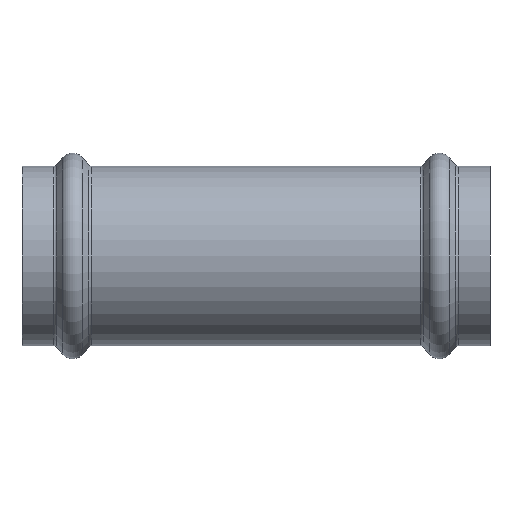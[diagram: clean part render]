
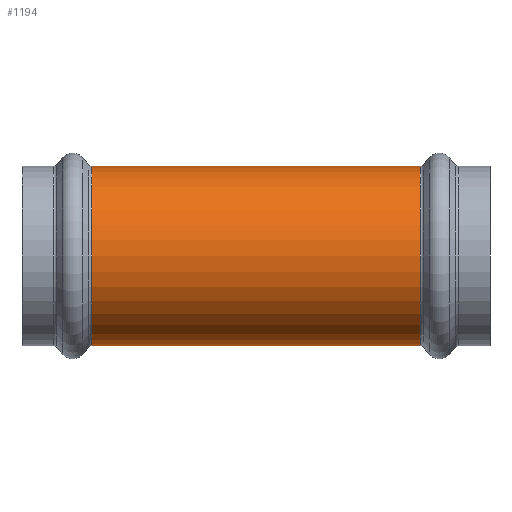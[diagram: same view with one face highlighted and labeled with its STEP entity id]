
A CAD part, front view. The second image highlights one B-rep face of the part: STEP entity #1194.
In plain terms, the highlighted cylindrical face has radius 23 mm (diameter 46 mm), a partial arc.
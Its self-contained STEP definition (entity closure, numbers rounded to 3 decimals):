
#5 = EDGE_CURVE ( 'NONE', #624, #600, #178, .T. ) ;
#96 = CARTESIAN_POINT ( 'NONE',  ( -42.161, 0., -23. ) ) ;
#178 = LINE ( 'NONE', #280, #493 ) ;
#280 = CARTESIAN_POINT ( 'NONE',  ( -55.033, 0., 23. ) ) ;
#303 = VECTOR ( 'NONE', #658, 1000. ) ;
#318 = ORIENTED_EDGE ( 'NONE', *, *, #5, .T. ) ;
#333 = LINE ( 'NONE', #1169, #303 ) ;
#401 = CIRCLE ( 'NONE', #1081, 23. ) ;
#409 = AXIS2_PLACEMENT_3D ( 'NONE', #1053, #976, #944 ) ;
#413 = CARTESIAN_POINT ( 'NONE',  ( -55.033, 0., 0. ) ) ;
#436 = DIRECTION ( 'NONE',  ( 0., 0., 1. ) ) ;
#493 = VECTOR ( 'NONE', #743, 1000. ) ;
#498 = ORIENTED_EDGE ( 'NONE', *, *, #844, .F. ) ;
#510 = ORIENTED_EDGE ( 'NONE', *, *, #869, .T. ) ;
#547 = DIRECTION ( 'NONE',  ( -1., 0., 0. ) ) ;
#600 = VERTEX_POINT ( 'NONE', #779 ) ;
#624 = VERTEX_POINT ( 'NONE', #740 ) ;
#658 = DIRECTION ( 'NONE',  ( -1., 0., 0. ) ) ;
#740 = CARTESIAN_POINT ( 'NONE',  ( 42.161, 0., 23. ) ) ;
#743 = DIRECTION ( 'NONE',  ( -1., 0., 0. ) ) ;
#779 = CARTESIAN_POINT ( 'NONE',  ( -42.161, 0., 23. ) ) ;
#816 = AXIS2_PLACEMENT_3D ( 'NONE', #413, #547, #436 ) ;
#824 = ORIENTED_EDGE ( 'NONE', *, *, #1100, .T. ) ;
#829 = FACE_OUTER_BOUND ( 'NONE', #1240, .T. ) ;
#844 = EDGE_CURVE ( 'NONE', #895, #989, #333, .T. ) ;
#869 = EDGE_CURVE ( 'NONE', #600, #989, #1049, .T. ) ;
#872 = CARTESIAN_POINT ( 'NONE',  ( 42.161, 0., 0. ) ) ;
#885 = DIRECTION ( 'NONE',  ( -1., 0., 0. ) ) ;
#888 = DIRECTION ( 'NONE',  ( 0., 0., -1. ) ) ;
#895 = VERTEX_POINT ( 'NONE', #1196 ) ;
#944 = DIRECTION ( 'NONE',  ( 0., 0., 1. ) ) ;
#976 = DIRECTION ( 'NONE',  ( 1., 0., 0. ) ) ;
#989 = VERTEX_POINT ( 'NONE', #96 ) ;
#1049 = CIRCLE ( 'NONE', #409, 23. ) ;
#1053 = CARTESIAN_POINT ( 'NONE',  ( -42.161, 0., 0. ) ) ;
#1081 = AXIS2_PLACEMENT_3D ( 'NONE', #872, #885, #888 ) ;
#1098 = CYLINDRICAL_SURFACE ( 'NONE', #816, 23. ) ;
#1100 = EDGE_CURVE ( 'NONE', #895, #624, #401, .T. ) ;
#1169 = CARTESIAN_POINT ( 'NONE',  ( -55.033, 0., -23. ) ) ;
#1194 = ADVANCED_FACE ( 'NONE', ( #829 ), #1098, .T. ) ;
#1196 = CARTESIAN_POINT ( 'NONE',  ( 42.161, 0., -23. ) ) ;
#1240 = EDGE_LOOP ( 'NONE', ( #498, #824, #318, #510 ) ) ;
